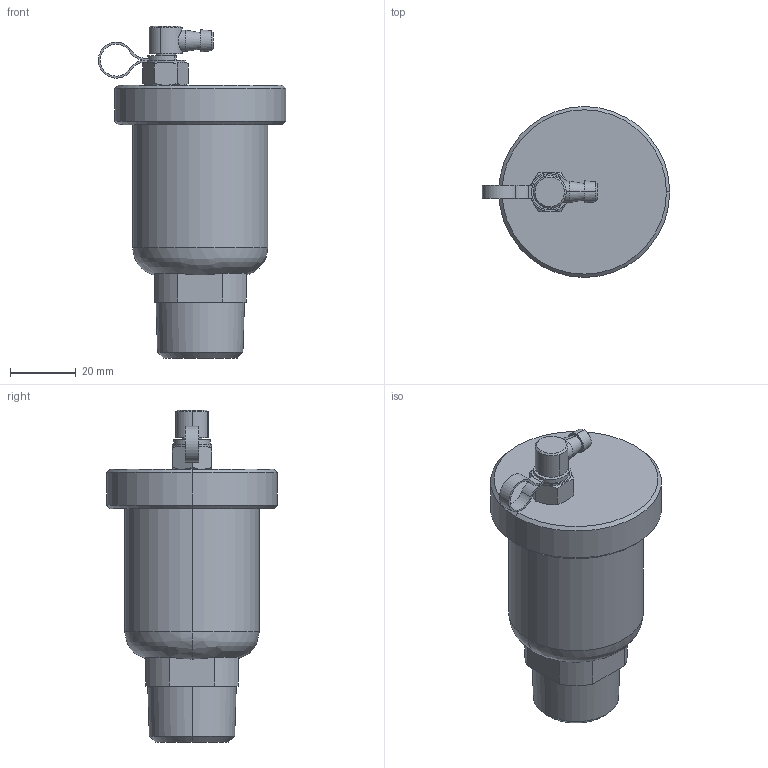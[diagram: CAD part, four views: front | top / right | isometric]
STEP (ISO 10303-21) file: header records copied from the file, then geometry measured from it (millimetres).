
FILE_DESCRIPTION( (''), '2;1');
FILE_NAME ('PC1276.2220.TA-22ML 20A_25824.stp','2025-06-09T14:55:29',(''),(''),'spGate 20.6.3 (****-****-****-****)','','');
FILE_SCHEMA (('AUTOMOTIVE_DESIGN'));
Length unit declared in the file: millimetre
Bounding box: 57 x 52 x 101 mm (x, y, z)
Volume: 101277.5 mm3; surface area: 14845.9 mm2
Topology: 1 solids, 1 shells, 84 faces, 213 edges, 137 vertices
Faces by surface type: bspline 30, plane 29, cylinder 25
Entity records: 4485 total; most frequent: CARTESIAN_POINT 968, ORIENTED_EDGE 426, DIRECTION 329, COLOUR_RGB 298, PRESENTATION_STYLE_ASSIGNMENT 298, STYLED_ITEM 298, EDGE_CURVE 213, DRAUGHTING_PRE_DEFINED_CURVE_FONT 213
